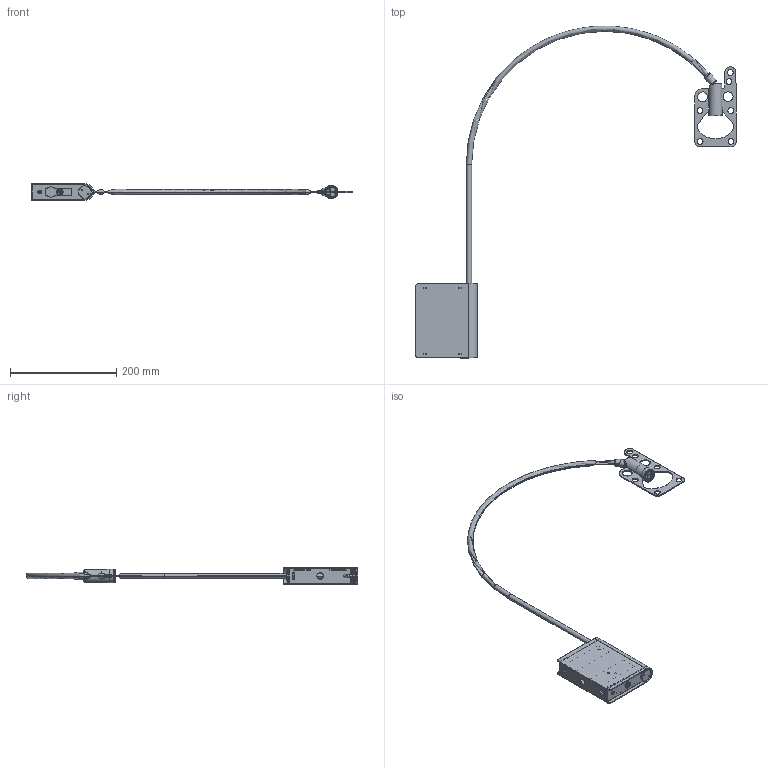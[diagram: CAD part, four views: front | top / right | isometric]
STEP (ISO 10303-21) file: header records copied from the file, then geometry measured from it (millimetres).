
FILE_DESCRIPTION (( 'STEP AP214' ), '1' );
FILE_NAME ('AP BUL-BO 30012024Z.STEP', '2024-01-30T08:56:13', ( '' ), ( '' ), 'SwSTEP 2.0', 'SolidWorks 2023', '' );
FILE_SCHEMA (( 'AUTOMOTIVE_DESIGN' ));
Length unit declared in the file: millimetre
Products named in the file (24): socket countersunk head screw_1_iso_ISO 10642 - M3 x 8 - 8C; Snodo Sacla 19716-01; AXO07.LT01.C009.R02; AXO07.LA01.C009.R0B; AXO07.LA01.C018.R00; AXO07.LA03.C001.R00; AXO07.LA01.C012.R0C; Lente LED PMMA Ø20 3 posizioni EA LM020.0XX.00; AXO07.LA01.C013.R0B; Snodo Sacla 19716-02_Custom; AXO07.LA01.AS02.R0C; Snodo Sacla 19716-03; AXO07.LA01.C016.R00; AXO07.LT01.C040.R00_Default<A macchina>; socket countersunk head screw_1_iso_ISO 10642 - M3 x 10 - 10C; AP BUL-BO 30012024Z; AXO07.LA01.C014.R0B; AXO07.LA01.C015.R0C; AXO07.LT01.C041.R00; O Rings_O RING Metrico Øi. 19.60 Sp. 2.40; Rondelle Steab_RONDELLA Øe10 Øi3.4 Sp.2 5301-34-2-2-6; AXO07.LT01.C006.R0B; Boccole Maschio_BOCCOLA D.10X2H FORO 5.2; AXO07.LT01.AM01.R0B
Assembly tree (24 placements, depth 4):
  AP BUL-BO 30012024Z
    socket countersunk head screw_1_iso_ISO 10642 - M3 x 10 - 10C  x2
    AXO07.LA01.C018.R00
    Boccole Maschio_BOCCOLA D.10X2H FORO 5.2
    Rondelle Steab_RONDELLA Øe10 Øi3.4 Sp.2 5301-34-2-2-6
    socket countersunk head screw_1_iso_ISO 10642 - M3 x 8 - 8C
    AXO07.LA01.C012.R0C
    AXO07.LA01.AS02.R0C
      AXO07.LA01.C013.R0B
      AXO07.LA01.C014.R0B
      AXO07.LA01.C015.R0C
    AXO07.LA01.C009.R0B
    AXO07.LA01.C016.R00
    AXO07.LT01.AM01.R0B
      AXO07.LT01.C006.R0B
      AXO07.LT01.C009.R02
      O Rings_O RING Metrico Øi. 19.60 Sp. 2.40
      Lente LED PMMA Ø20 3 posizioni EA LM020.0XX.00
      AXO07.LT01.C041.R00
        Snodo Sacla 19716-01
        Snodo Sacla 19716-03
        Snodo Sacla 19716-02_Custom
    AXO07.LT01.C040.R00_Default<A macchina>
    AXO07.LA03.C001.R00
Bounding box: 602.18 x 623.57 x 31 mm (x, y, z)
Volume: 147261.1 mm3; surface area: 192761.5 mm2
Topology: 29 solids, 29 shells, 682 faces, 1652 edges, 1035 vertices
Faces by surface type: plane 320, cylinder 263, cone 64, torus 35
Entity records: 20891 total; most frequent: CARTESIAN_POINT 4089, DIRECTION 3531, ORIENTED_EDGE 3172, EDGE_CURVE 1586, AXIS2_PLACEMENT_3D 1314, VERTEX_POINT 1004, VECTOR 903, LINE 903
